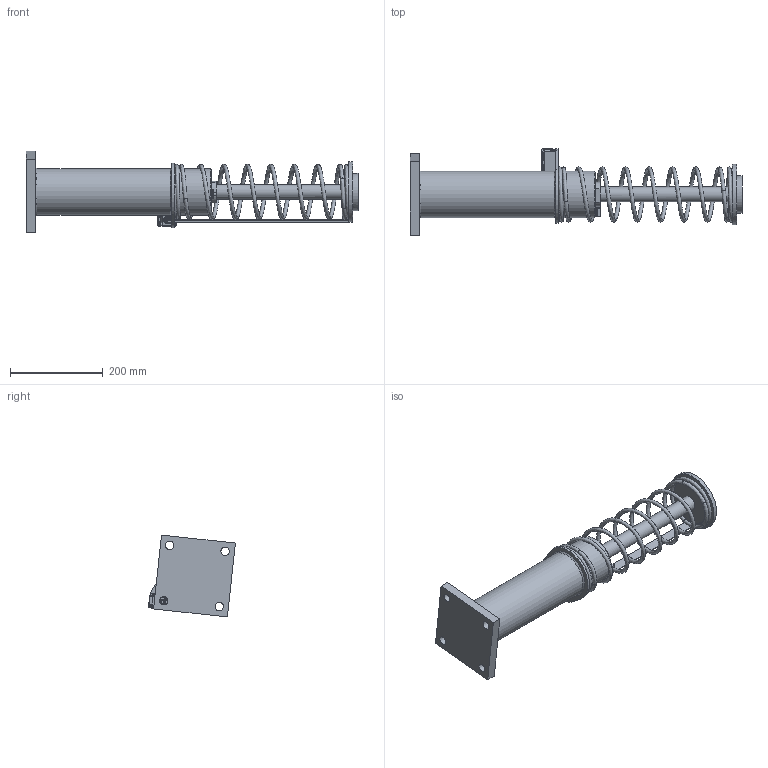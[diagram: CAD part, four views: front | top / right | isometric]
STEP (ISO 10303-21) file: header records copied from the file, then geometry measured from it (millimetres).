
FILE_DESCRIPTION(/* description */ ('Diese Zeichnung ist Eigentum der Henning GmbH & Co. KG und darf nur mit Genehmigung an dritte weitergegeben werden Henning GmbH & Co. KG'),/* implementation_level */ '2;1');
FILE_NAME(/* name */ '\\dc1\Dokumentenverwaltung\Fertigung\Liftpuffer\97400000-97699999-LIFTPUFFER CAD\3-D Zeichnungen\Entwicklung\Liftpuffer Low-Cost\HPM-40-275\HPM-40-275-Kunde.stp',/* time_stamp */ '2019-04-08T16:31:28+02:00',/* author */ ('Baecker'),/* organization */ ('Henning GmbH & Co. KG'),/* preprocessor_version */ 'ST-DEVELOPER v17.2',/* originating_system */ 'Autodesk Inventor 2019',/* authorisation */ '');
FILE_SCHEMA (('AUTOMOTIVE_DESIGN { 1 0 10303 214 3 1 1 }'));
Products named in the file (1): HPM-40-275-Kunde
Bounding box: 715 x 186.7 x 176.1 mm (x, y, z)
Volume: 4229557.1 mm3; surface area: 395608.9 mm2
Topology: 2 solids, 2 shells, 2100 faces, 5906 edges, 3834 vertices
Faces by surface type: plane 1119, cylinder 471, bspline 306, cone 89, torus 59, sphere 56
Full cylindrical faces by diameter (mm): 1.4 x1, 1.7 x1, 2 x1, 2.15 x2, 2.5 x2, 3 x2, 3.25 x1, 3.6 x1, 3.95 x2, 4 x5, 4.2 x2, 4.3 x2, 5 x1, 5.4 x1, 6 x2, 6.6 x2, 7 x3, 7.53 x1, 8 x1, 8.3 x1, 8.4 x1, 9 x1, 10 x1, 10.042 x1, 11 x1, 11.2 x1, 11.4 x1, 13 x1, 16 x1, 18 x5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
Entity records: 82487 total; most frequent: CARTESIAN_POINT 26434, ORIENTED_EDGE 11794, DIRECTION 10700, EDGE_CURVE 5897, VERTEX_POINT 3834, LINE 3584, VECTOR 3584, AXIS2_PLACEMENT_3D 3558
